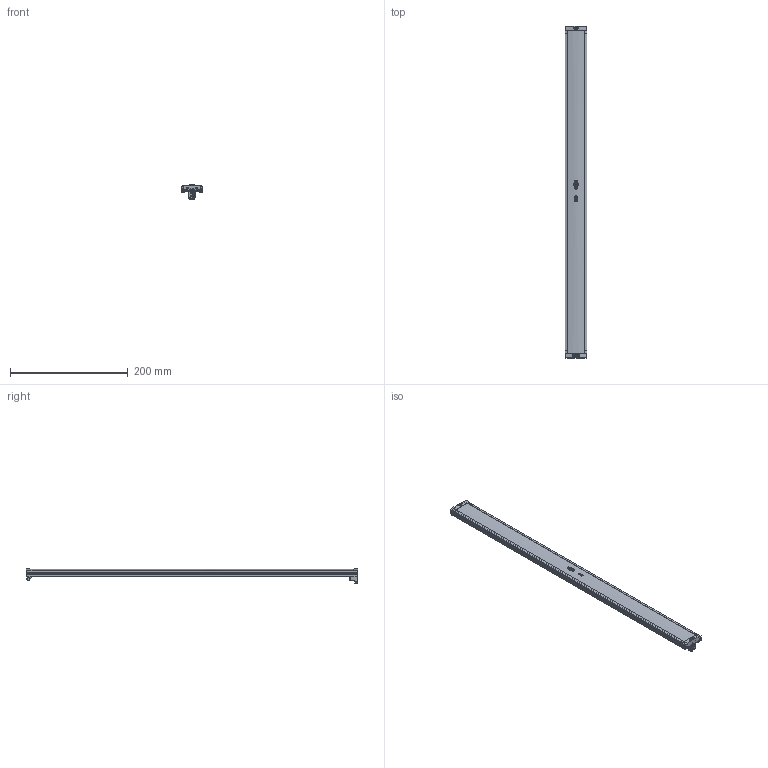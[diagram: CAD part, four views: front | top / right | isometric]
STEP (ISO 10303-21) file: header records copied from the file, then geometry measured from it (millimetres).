
FILE_DESCRIPTION(('CAx-IF Rec.Pracs.---Model Styling and Organization---1.2---2011-12-15','CAx-IF Rec.Pracs.---Geometric and Assembly Validation Properties---4.1---2014-06-16','CAx-IF Rec.Pracs.---PMI Polyline Presentation---2.0---2013-05-24'),'2;1');
FILE_NAME('01VYQ8HY04.stp','2019-10-15T11:45:53+02:00',(''),(''),'STEP Interface 4.3 by CT CoreTechnologie','3D_Evolution4.3 by CT CoreTechnologie','');
FILE_SCHEMA(('AP203_CONFIGURATION_CONTROLLED_3D_DESIGN_OF_MECHANICAL_PARTS_AND_ASSEMBLIES_MIM_LF'));
Length unit declared in the file: millimetre
Products named in the file (6): 01VYQ8HY04; 01V-Q82-02; 01V-Q88-03; 01V-Q0B-09; 01V-Q8D-06; 01V-Q0F-01
Assembly tree (8 placements, depth 2):
  01VYQ8HY04
    01V-Q82-02
    01V-Q88-03
    01V-Q0B-09
    01V-Q8D-06
    01V-Q0F-01  x4
Bounding box: 37 x 563.8 x 24.4 mm (x, y, z)
Volume: 101080.6 mm3; surface area: 137999.5 mm2
Topology: 10 solids, 10 shells, 967 faces, 2617 edges, 1727 vertices
Faces by surface type: plane 658, cylinder 207, bspline 102
Entity records: 82884 total; most frequent: CARTESIAN_POINT 17433, PROPERTY_DEFINITION 6501, ORIENTED_EDGE 4610, DIRECTION 3990, REPRESENTATION 3255, GENERAL_PROPERTY 3255, PROPERTY_DEFINITION_REPRESENTATION 3255, GENERAL_PROPERTY_ASSOCIATION 3255
